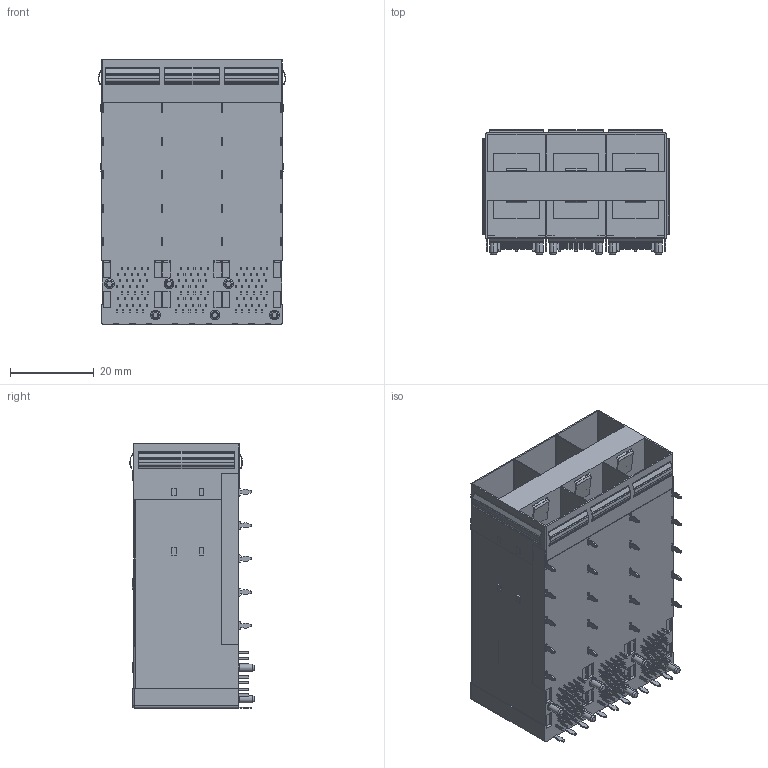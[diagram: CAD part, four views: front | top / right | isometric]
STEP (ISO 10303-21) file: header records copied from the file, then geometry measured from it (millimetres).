
FILE_DESCRIPTION (( 'STEP AP203' ), '1' );
FILE_NAME ('22300_SFP+ 2X3 拸絳嫖翐.STEP', '2024-06-05T00:31:19', ( '' ), ( '' ), 'SwSTEP 2.0', 'SolidWorks 2018', '' );
FILE_SCHEMA (( 'CONFIG_CONTROL_DESIGN' ));
Products named in the file (1): 22300_SFP+ 2X3 拸絳嫖翐
Bounding box: 44.81 x 29.78 x 63.25 mm (x, y, z)
Volume: 35363.9 mm3; surface area: 26865.2 mm2
Topology: 1 solids, 1 shells, 1642 faces, 4578 edges, 3110 vertices
Faces by surface type: plane 1216, cylinder 400, cone 24, sphere 2
Entity records: 52697 total; most frequent: CARTESIAN_POINT 9329, ORIENTED_EDGE 9152, DIRECTION 8690, EDGE_CURVE 4576, LINE 3748, VECTOR 3748, VERTEX_POINT 3110, AXIS2_PLACEMENT_3D 2471
